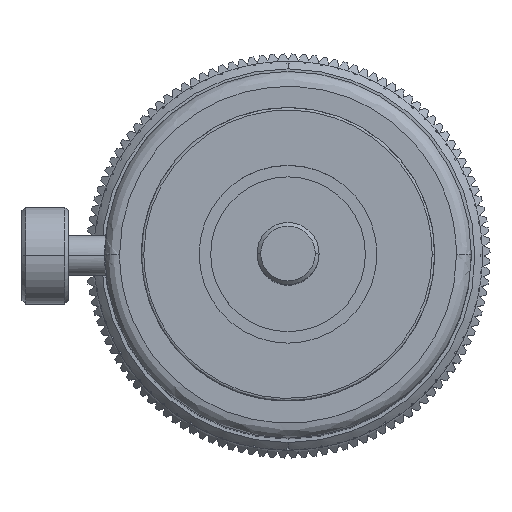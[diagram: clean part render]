
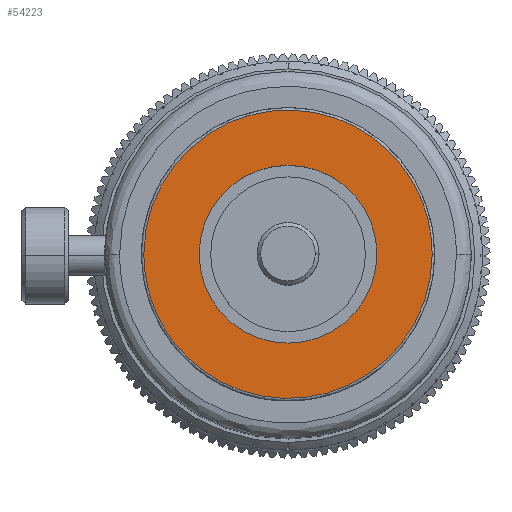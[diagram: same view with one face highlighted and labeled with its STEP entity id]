
A CAD part, top view. The second image highlights one B-rep face of the part: STEP entity #54223.
In plain terms, the highlighted planar face has unit normal (0, 0, 1).
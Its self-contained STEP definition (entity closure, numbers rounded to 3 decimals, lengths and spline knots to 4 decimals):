
#3071 = EDGE_LOOP ( 'NONE', ( #16005, #16006 ) ) ;
#3077 = EDGE_LOOP ( 'NONE', ( #16003, #16004 ) ) ;
#7561 = EDGE_CURVE ( 'NONE', #52238, #52243, #46768, .T. ) ;
#8146 = CARTESIAN_POINT ( 'NONE',  ( -1.4732, 0., 0. ) ) ;
#8152 = CARTESIAN_POINT ( 'NONE',  ( 1.4732, 0., 0. ) ) ;
#8439 = CARTESIAN_POINT ( 'NONE',  ( 0.908, 0., 0. ) ) ;
#8444 = CARTESIAN_POINT ( 'NONE',  ( -0.908, 0., 0. ) ) ;
#16003 = ORIENTED_EDGE ( 'NONE', *, *, #42523, .F. ) ;
#16004 = ORIENTED_EDGE ( 'NONE', *, *, #43239, .F. ) ;
#16005 = ORIENTED_EDGE ( 'NONE', *, *, #43189, .T. ) ;
#16006 = ORIENTED_EDGE ( 'NONE', *, *, #7561, .T. ) ;
#18359 = CARTESIAN_POINT ( 'NONE',  ( 0., 0., 0. ) ) ;
#18360 = DIRECTION ( 'NONE',  ( 0., 0., -1. ) ) ;
#18361 = DIRECTION ( 'NONE',  ( -1., 0., 0. ) ) ;
#18602 = CARTESIAN_POINT ( 'NONE',  ( 1.4732, -2.9464, 0. ) ) ;
#18618 = CARTESIAN_POINT ( 'NONE',  ( 1.4732, 0., 0. ) ) ;
#18621 = CARTESIAN_POINT ( 'NONE',  ( -1.4732, -2.9464, 0. ) ) ;
#18622 = CARTESIAN_POINT ( 'NONE',  ( -1.4732, 0., 0. ) ) ;
#31919 = CIRCLE ( 'NONE', #50964, 0.908 ) ;
#33635 = CARTESIAN_POINT ( 'NONE',  ( 1.4732, 2.9464, 0. ) ) ;
#33646 = CARTESIAN_POINT ( 'NONE',  ( -1.4732, 2.9464, 0. ) ) ;
#33678 = CARTESIAN_POINT ( 'NONE',  ( -1.4732, 0., 0. ) ) ;
#33682 = CARTESIAN_POINT ( 'NONE',  ( 1.4732, 0., 0. ) ) ;
#36557 =( BOUNDED_CURVE ( )  B_SPLINE_CURVE ( 3, ( #18618, #18602, #18621, #18622 ),
 .UNSPECIFIED., .F., .F. ) 
 B_SPLINE_CURVE_WITH_KNOTS ( ( 4, 4 ),
 ( 0.5, 1. ),
 .UNSPECIFIED. ) 
 CURVE ( )  GEOMETRIC_REPRESENTATION_ITEM ( )  RATIONAL_B_SPLINE_CURVE ( ( 1., 0.333, 0.333, 1. ) ) 
 REPRESENTATION_ITEM ( '' )  );
#36623 = CARTESIAN_POINT ( 'NONE',  ( -0.8522, 0., 0. ) ) ;
#36624 = PLANE ( 'NONE',  #50136 ) ;
#36632 = DIRECTION ( 'NONE',  ( 0., 0., 1. ) ) ;
#36634 = DIRECTION ( 'NONE',  ( 1., 0., 0. ) ) ;
#38075 =( BOUNDED_CURVE ( )  B_SPLINE_CURVE ( 3, ( #33678, #33646, #33635, #33682 ),
 .UNSPECIFIED., .F., .F. ) 
 B_SPLINE_CURVE_WITH_KNOTS ( ( 4, 4 ),
 ( 0., 0.5 ),
 .UNSPECIFIED. ) 
 CURVE ( )  GEOMETRIC_REPRESENTATION_ITEM ( )  RATIONAL_B_SPLINE_CURVE ( ( 1., 0.333, 0.333, 1. ) ) 
 REPRESENTATION_ITEM ( '' )  );
#38490 = FACE_BOUND ( 'NONE', #3071, .T. ) ;
#38594 = FACE_OUTER_BOUND ( 'NONE', #3077, .T. ) ;
#42523 = EDGE_CURVE ( 'NONE', #50659, #50673, #38075, .T. ) ;
#43189 = EDGE_CURVE ( 'NONE', #52243, #52238, #31919, .T. ) ;
#43239 = EDGE_CURVE ( 'NONE', #50673, #50659, #36557, .T. ) ;
#45217 = DIRECTION ( 'NONE',  ( -1., 0., 0. ) ) ;
#45344 = CARTESIAN_POINT ( 'NONE',  ( 0., 0., 0. ) ) ;
#45510 = DIRECTION ( 'NONE',  ( 0., 0., -1. ) ) ;
#46768 = CIRCLE ( 'NONE', #47779, 0.908 ) ;
#47779 = AXIS2_PLACEMENT_3D ( 'NONE', #45344, #45510, #45217 ) ;
#50136 = AXIS2_PLACEMENT_3D ( 'NONE', #36623, #36632, #36634 ) ;
#50659 = VERTEX_POINT ( 'NONE', #8146 ) ;
#50673 = VERTEX_POINT ( 'NONE', #8152 ) ;
#50964 = AXIS2_PLACEMENT_3D ( 'NONE', #18359, #18360, #18361 ) ;
#52238 = VERTEX_POINT ( 'NONE', #8439 ) ;
#52243 = VERTEX_POINT ( 'NONE', #8444 ) ;
#54223 = ADVANCED_FACE ( 'NONE', ( #38594, #38490 ), #36624, .T. ) ;
